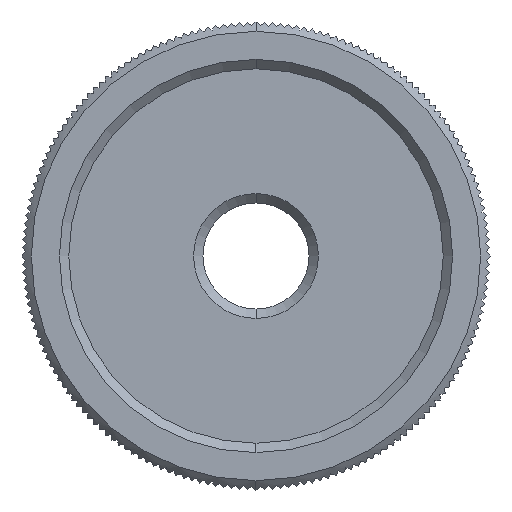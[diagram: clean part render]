
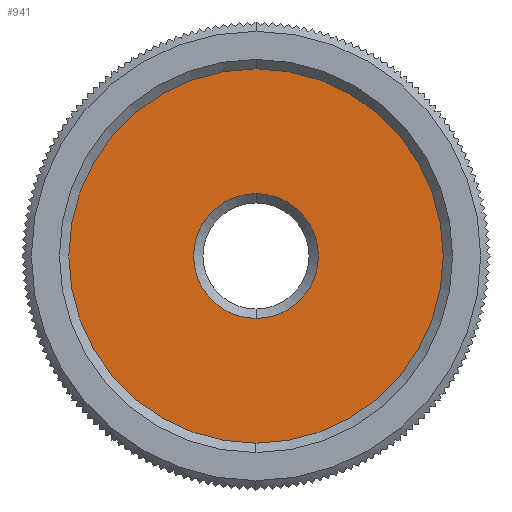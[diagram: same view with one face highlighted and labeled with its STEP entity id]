
A CAD part, left-side view. The second image highlights one B-rep face of the part: STEP entity #941.
In plain terms, the highlighted planar face has unit normal (-1, 0, 0).
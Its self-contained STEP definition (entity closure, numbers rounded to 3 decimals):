
#327 = VERTEX_POINT ( 'NONE', #4507 ) ;
#369 = VERTEX_POINT ( 'NONE', #4562 ) ;
#430 = VERTEX_POINT ( 'NONE', #4659 ) ;
#465 = VERTEX_POINT ( 'NONE', #4725 ) ;
#503 = EDGE_CURVE ( 'NONE', #430, #327, #4782, .T. ) ;
#506 = EDGE_CURVE ( 'NONE', #369, #465, #4770, .T. ) ;
#916 = EDGE_CURVE ( 'NONE', #465, #369, #5646, .T. ) ;
#918 = ORIENTED_EDGE ( 'NONE', *, *, #506, .T. ) ;
#941 = ADVANCED_FACE ( 'NONE', ( #5706, #5705 ), #5704, .T. ) ;
#942 = EDGE_LOOP ( 'NONE', ( #943, #944 ) ) ;
#943 = ORIENTED_EDGE ( 'NONE', *, *, #503, .T. ) ;
#944 = ORIENTED_EDGE ( 'NONE', *, *, #947, .T. ) ;
#947 = EDGE_CURVE ( 'NONE', #327, #430, #5692, .T. ) ;
#949 = EDGE_LOOP ( 'NONE', ( #950, #918 ) ) ;
#950 = ORIENTED_EDGE ( 'NONE', *, *, #916, .T. ) ;
#4507 = CARTESIAN_POINT ( 'NONE',  ( -5., 0., -4. ) ) ;
#4562 = CARTESIAN_POINT ( 'NONE',  ( -5., 0., -12. ) ) ;
#4659 = CARTESIAN_POINT ( 'NONE',  ( -5., 0., 4. ) ) ;
#4725 = CARTESIAN_POINT ( 'NONE',  ( -5., 0., 12. ) ) ;
#4766 = DIRECTION ( 'NONE',  ( 0., 0., 1. ) ) ;
#4767 = DIRECTION ( 'NONE',  ( -1., 0., 0. ) ) ;
#4769 = AXIS2_PLACEMENT_3D ( 'NONE', #4774, #4767, #4766 ) ;
#4770 = CIRCLE ( 'NONE', #4769, 12. ) ;
#4774 = CARTESIAN_POINT ( 'NONE',  ( -5., 0., 0. ) ) ;
#4778 = DIRECTION ( 'NONE',  ( 0., 0., 1. ) ) ;
#4779 = DIRECTION ( 'NONE',  ( 1., 0., 0. ) ) ;
#4780 = CARTESIAN_POINT ( 'NONE',  ( -5., 0., 0. ) ) ;
#4781 = AXIS2_PLACEMENT_3D ( 'NONE', #4780, #4779, #4778 ) ;
#4782 = CIRCLE ( 'NONE', #4781, 4. ) ;
#5638 = DIRECTION ( 'NONE',  ( 0., 0., 1. ) ) ;
#5639 = DIRECTION ( 'NONE',  ( -1., 0., 0. ) ) ;
#5640 = CARTESIAN_POINT ( 'NONE',  ( -5., 0., 0. ) ) ;
#5641 = AXIS2_PLACEMENT_3D ( 'NONE', #5640, #5639, #5638 ) ;
#5646 = CIRCLE ( 'NONE', #5641, 12. ) ;
#5689 = DIRECTION ( 'NONE',  ( 0., 0., 1. ) ) ;
#5690 = DIRECTION ( 'NONE',  ( 1., 0., 0. ) ) ;
#5691 = AXIS2_PLACEMENT_3D ( 'NONE', #5698, #5690, #5689 ) ;
#5692 = CIRCLE ( 'NONE', #5691, 4. ) ;
#5698 = CARTESIAN_POINT ( 'NONE',  ( -5., 0., 0. ) ) ;
#5700 = DIRECTION ( 'NONE',  ( 0., 0., 1. ) ) ;
#5701 = DIRECTION ( 'NONE',  ( -1., 0., 0. ) ) ;
#5702 = CARTESIAN_POINT ( 'NONE',  ( -5., 0., 0. ) ) ;
#5703 = AXIS2_PLACEMENT_3D ( 'NONE', #5702, #5701, #5700 ) ;
#5704 = PLANE ( 'NONE',  #5703 ) ;
#5705 = FACE_OUTER_BOUND ( 'NONE', #949, .T. ) ;
#5706 = FACE_BOUND ( 'NONE', #942, .T. ) ;
